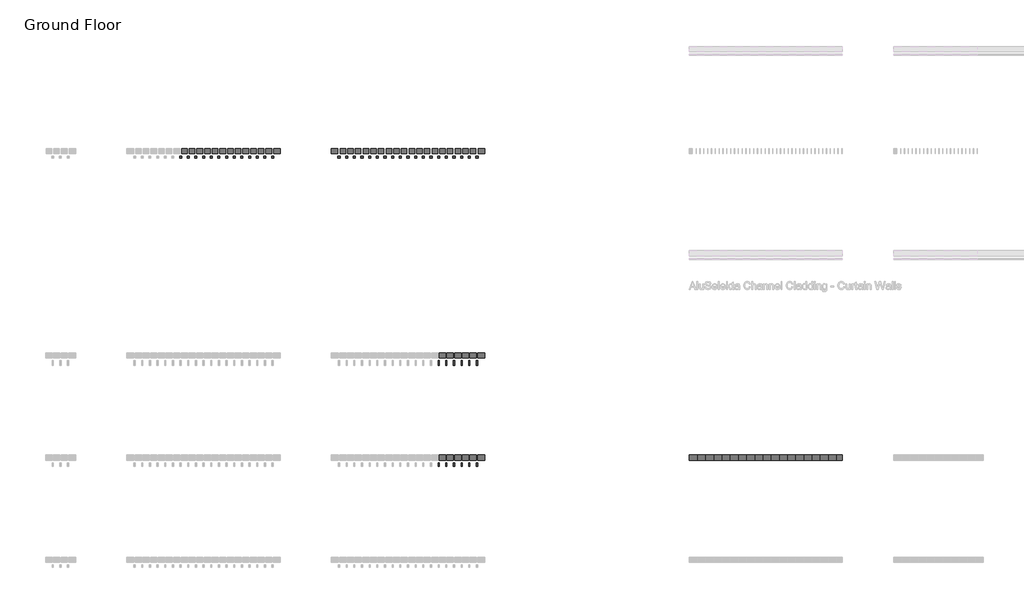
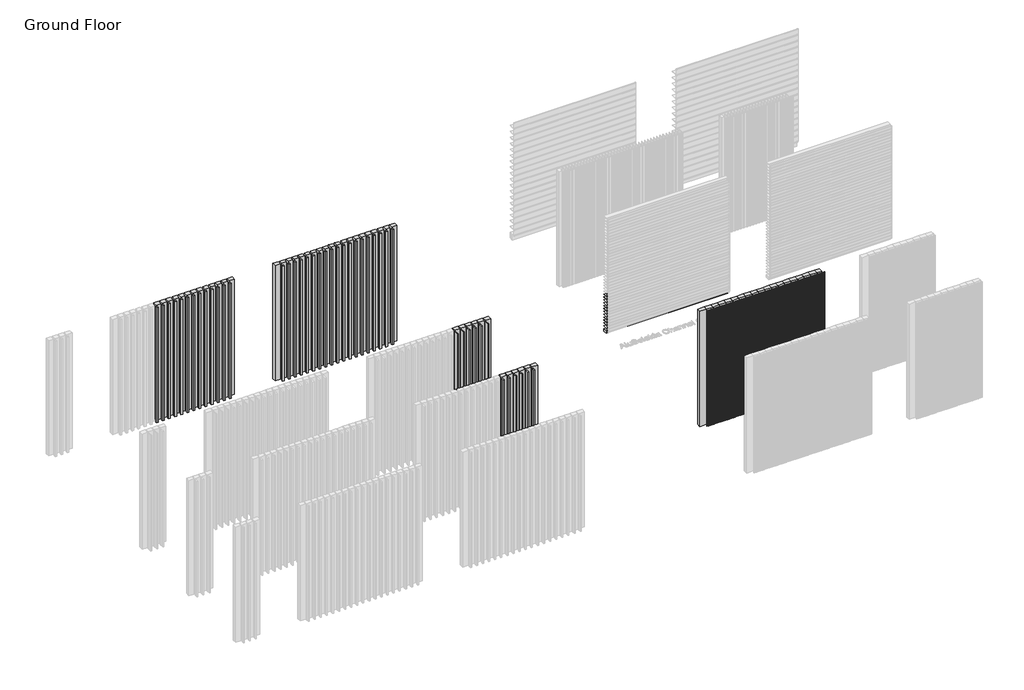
# One storey, part 10 of 350: 77 plates, 62 members.
"""IFC4 building model written with IfcOpenShell, lengths in millimetres."""

from ifc_helpers import new_model, si_unit, origin, place, context, project, spatial, transform, mapped, element, save
from components import rectangular_mullion_5b385907, rectangular_mullion_b3f0cc74, rectangular_mullion_e8802490, rectangular_mullion_73ab8564, empty_system_panel_empty_02c6fd44, empty_system_panel_empty_1b6afc67, empty_system_panel_empty_4d48d162, empty_system_panel_empty_b664eb17, empty_system_panel_empty_6da6c4cd, empty_system_panel_empty_b9c1531e, empty_system_panel_empty_3b645525, empty_system_panel_empty_df7ddcff, empty_system_panel_empty_81cf2ed3

model = new_model("IFC4")

# Units and contexts
model_context = context("Model", 3, world=origin())
ifc_project = project(units=[si_unit("LENGTHUNIT", "METRE", prefix="MILLI")], contexts=[model_context])

# Site, building, storey
site = spatial("IfcSite", under=ifc_project)
building = spatial("IfcBuilding", under=site)
storey = spatial("IfcBuildingStorey", under=building, Name="Ground Floor", Elevation=0.0)

# Members
placement = place(None, origin())
rectangular_mullion_shape = rectangular_mullion_5b385907(model_context)
element("IfcMember", 1, ObjectType="Rectangular Mullion : Batten_Aluminium_Modinex_AluBatten_40x40_TasmanianOak", at=placement, inside=storey, context=model_context, shape_type="MappedRepresentation", body=[
    mapped(rectangular_mullion_shape, transform((18966.4361642, 14968.2978302, 0.0), x_axis=(1.0, 0.0, 0.0), y_axis=(0.0, -1.0, 0.0), z_axis=(0.0, 0.0, -1.0))),
])
element("IfcMember", 2, ObjectType="Rectangular Mullion : Batten_Aluminium_Modinex_AluBatten_40x40_TasmanianOak", at=placement, inside=storey, context=model_context, shape_type="MappedRepresentation", body=[
    mapped(rectangular_mullion_shape, transform((19116.4361642, 14968.2978302, 0.0), x_axis=(1.0, 0.0, 0.0), y_axis=(0.0, -1.0, 0.0), z_axis=(0.0, 0.0, -1.0))),
])
element("IfcMember", 3, ObjectType="Rectangular Mullion : Batten_Aluminium_Modinex_AluBatten_40x40_TasmanianOak", at=placement, inside=storey, context=model_context, shape_type="MappedRepresentation", body=[
    mapped(rectangular_mullion_shape, transform((19266.4361642, 14968.2978302, 0.0), x_axis=(1.0, 0.0, 0.0), y_axis=(0.0, -1.0, 0.0), z_axis=(0.0, 0.0, -1.0))),
])
element("IfcMember", 4, ObjectType="Rectangular Mullion : Batten_Aluminium_Modinex_AluBatten_40x40_TasmanianOak", at=placement, inside=storey, context=model_context, shape_type="MappedRepresentation", body=[
    mapped(rectangular_mullion_shape, transform((19416.4361642, 14968.2978302, 0.0), x_axis=(1.0, 0.0, 0.0), y_axis=(0.0, -1.0, 0.0), z_axis=(0.0, 0.0, -1.0))),
])
element("IfcMember", 5, ObjectType="Rectangular Mullion : Batten_Aluminium_Modinex_AluBatten_40x40_TasmanianOak", at=placement, inside=storey, context=model_context, shape_type="MappedRepresentation", body=[
    mapped(rectangular_mullion_shape, transform((19566.4361642, 14968.2978302, 0.0), x_axis=(1.0, 0.0, 0.0), y_axis=(0.0, -1.0, 0.0), z_axis=(0.0, 0.0, -1.0))),
])
element("IfcMember", 6, ObjectType="Rectangular Mullion : Batten_Aluminium_Modinex_AluBatten_40x40_TasmanianOak", at=placement, inside=storey, context=model_context, shape_type="MappedRepresentation", body=[
    mapped(rectangular_mullion_shape, transform((19716.4361642, 14968.2978302, 0.0), x_axis=(1.0, 0.0, 0.0), y_axis=(0.0, -1.0, 0.0), z_axis=(0.0, 0.0, -1.0))),
])
element("IfcMember", 7, ObjectType="Rectangular Mullion : Batten_Aluminium_Modinex_AluBatten_40x40_TasmanianOak", at=placement, inside=storey, context=model_context, shape_type="MappedRepresentation", body=[
    mapped(rectangular_mullion_shape, transform((19866.4361642, 14968.2978302, 0.0), x_axis=(1.0, 0.0, 0.0), y_axis=(0.0, -1.0, 0.0), z_axis=(0.0, 0.0, -1.0))),
])
element("IfcMember", 8, ObjectType="Rectangular Mullion : Batten_Aluminium_Modinex_AluBatten_40x40_TasmanianOak", at=placement, inside=storey, context=model_context, shape_type="MappedRepresentation", body=[
    mapped(rectangular_mullion_shape, transform((20016.4361642, 14968.2978302, 0.0), x_axis=(1.0, 0.0, 0.0), y_axis=(0.0, -1.0, 0.0), z_axis=(0.0, 0.0, -1.0))),
])
element("IfcMember", 9, ObjectType="Rectangular Mullion : Batten_Aluminium_Modinex_AluBatten_40x40_TasmanianOak", at=placement, inside=storey, context=model_context, shape_type="MappedRepresentation", body=[
    mapped(rectangular_mullion_shape, transform((20166.4361642, 14968.2978302, 0.0), x_axis=(1.0, 0.0, 0.0), y_axis=(0.0, -1.0, 0.0), z_axis=(0.0, 0.0, -1.0))),
])
element("IfcMember", 10, ObjectType="Rectangular Mullion : Batten_Aluminium_Modinex_AluBatten_40x40_TasmanianOak", at=placement, inside=storey, context=model_context, shape_type="MappedRepresentation", body=[
    mapped(rectangular_mullion_shape, transform((20316.4361642, 14968.2978302, 0.0), x_axis=(1.0, 0.0, 0.0), y_axis=(0.0, -1.0, 0.0), z_axis=(0.0, 0.0, -1.0))),
])
element("IfcMember", 11, ObjectType="Rectangular Mullion : Batten_Aluminium_Modinex_AluBatten_40x40_TasmanianOak", at=placement, inside=storey, context=model_context, shape_type="MappedRepresentation", body=[
    mapped(rectangular_mullion_shape, transform((20466.4361642, 14968.2978302, 0.0), x_axis=(1.0, 0.0, 0.0), y_axis=(0.0, -1.0, 0.0), z_axis=(0.0, 0.0, -1.0))),
])
element("IfcMember", 12, ObjectType="Rectangular Mullion : Batten_Aluminium_Modinex_AluBatten_40x40_TasmanianOak", at=placement, inside=storey, context=model_context, shape_type="MappedRepresentation", body=[
    mapped(rectangular_mullion_shape, transform((20616.4361642, 14968.2978302, 0.0), x_axis=(1.0, 0.0, 0.0), y_axis=(0.0, -1.0, 0.0), z_axis=(0.0, 0.0, -1.0))),
])
element("IfcMember", 13, ObjectType="Rectangular Mullion : Batten_Aluminium_Modinex_AluBatten_40x40_TasmanianOak", at=placement, inside=storey, context=model_context, shape_type="MappedRepresentation", body=[
    mapped(rectangular_mullion_shape, transform((20766.4361642, 14968.2978302, 0.0), x_axis=(1.0, 0.0, 0.0), y_axis=(0.0, -1.0, 0.0), z_axis=(0.0, 0.0, -1.0))),
])
rectangular_mullion_2_shape = rectangular_mullion_b3f0cc74(model_context)
element("IfcMember", 14, ObjectType="Rectangular Mullion : Batten_Aluminium_Modinex_AluBatten_25x75_WhiteOak", at=placement, inside=storey, context=model_context, shape_type="MappedRepresentation", body=[
    mapped(rectangular_mullion_2_shape, transform((24016.4361642, 8968.2978302, 0.0), x_axis=(1.0, 0.0, 0.0), y_axis=(0.0, -1.0, 0.0), z_axis=(0.0, 0.0, -1.0))),
])
element("IfcMember", 15, ObjectType="Rectangular Mullion : Batten_Aluminium_Modinex_AluBatten_25x75_WhiteOak", at=placement, inside=storey, context=model_context, shape_type="MappedRepresentation", body=[
    mapped(rectangular_mullion_2_shape, transform((24166.4361642, 8968.2978302, 0.0), x_axis=(1.0, 0.0, 0.0), y_axis=(0.0, -1.0, 0.0), z_axis=(0.0, 0.0, -1.0))),
])
element("IfcMember", 16, ObjectType="Rectangular Mullion : Batten_Aluminium_Modinex_AluBatten_25x75_WhiteOak", at=placement, inside=storey, context=model_context, shape_type="MappedRepresentation", body=[
    mapped(rectangular_mullion_2_shape, transform((24316.4361642, 8968.2978302, 0.0), x_axis=(1.0, 0.0, 0.0), y_axis=(0.0, -1.0, 0.0), z_axis=(0.0, 0.0, -1.0))),
])
element("IfcMember", 17, ObjectType="Rectangular Mullion : Batten_Aluminium_Modinex_AluBatten_25x75_WhiteOak", at=placement, inside=storey, context=model_context, shape_type="MappedRepresentation", body=[
    mapped(rectangular_mullion_2_shape, transform((24466.4361642, 8968.2978302, 0.0), x_axis=(1.0, 0.0, 0.0), y_axis=(0.0, -1.0, 0.0), z_axis=(0.0, 0.0, -1.0))),
])
element("IfcMember", 18, ObjectType="Rectangular Mullion : Batten_Aluminium_Modinex_AluBatten_25x75_WhiteOak", at=placement, inside=storey, context=model_context, shape_type="MappedRepresentation", body=[
    mapped(rectangular_mullion_2_shape, transform((24616.4361642, 8968.2978302, 0.0), x_axis=(1.0, 0.0, 0.0), y_axis=(0.0, -1.0, 0.0), z_axis=(0.0, 0.0, -1.0))),
])
element("IfcMember", 19, ObjectType="Rectangular Mullion : Batten_Aluminium_Modinex_AluBatten_25x75_WhiteOak", at=placement, inside=storey, context=model_context, shape_type="MappedRepresentation", body=[
    mapped(rectangular_mullion_2_shape, transform((24766.4361642, 8968.2978302, 0.0), x_axis=(1.0, 0.0, 0.0), y_axis=(0.0, -1.0, 0.0), z_axis=(0.0, 0.0, -1.0))),
])
rectangular_mullion_3_shape = rectangular_mullion_e8802490(model_context)
element("IfcMember", 20, ObjectType="Rectangular Mullion : Batten_Aluminium_Modinex_AluBatten_25x100_WhiteOak", at=placement, inside=storey, context=model_context, shape_type="MappedRepresentation", body=[
    mapped(rectangular_mullion_3_shape, transform((24016.4361642, 10968.2978302, 0.0), x_axis=(1.0, 0.0, 0.0), y_axis=(0.0, -1.0, 0.0), z_axis=(0.0, 0.0, -1.0))),
])
element("IfcMember", 21, ObjectType="Rectangular Mullion : Batten_Aluminium_Modinex_AluBatten_25x100_WhiteOak", at=placement, inside=storey, context=model_context, shape_type="MappedRepresentation", body=[
    mapped(rectangular_mullion_3_shape, transform((24166.4361642, 10968.2978302, 0.0), x_axis=(1.0, 0.0, 0.0), y_axis=(0.0, -1.0, 0.0), z_axis=(0.0, 0.0, -1.0))),
])
element("IfcMember", 22, ObjectType="Rectangular Mullion : Batten_Aluminium_Modinex_AluBatten_25x100_WhiteOak", at=placement, inside=storey, context=model_context, shape_type="MappedRepresentation", body=[
    mapped(rectangular_mullion_3_shape, transform((24316.4361642, 10968.2978302, 0.0), x_axis=(1.0, 0.0, 0.0), y_axis=(0.0, -1.0, 0.0), z_axis=(0.0, 0.0, -1.0))),
])
element("IfcMember", 23, ObjectType="Rectangular Mullion : Batten_Aluminium_Modinex_AluBatten_25x100_WhiteOak", at=placement, inside=storey, context=model_context, shape_type="MappedRepresentation", body=[
    mapped(rectangular_mullion_3_shape, transform((24466.4361642, 10968.2978302, 0.0), x_axis=(1.0, 0.0, 0.0), y_axis=(0.0, -1.0, 0.0), z_axis=(0.0, 0.0, -1.0))),
])
element("IfcMember", 24, ObjectType="Rectangular Mullion : Batten_Aluminium_Modinex_AluBatten_25x100_WhiteOak", at=placement, inside=storey, context=model_context, shape_type="MappedRepresentation", body=[
    mapped(rectangular_mullion_3_shape, transform((24616.4361642, 10968.2978302, 0.0), x_axis=(1.0, 0.0, 0.0), y_axis=(0.0, -1.0, 0.0), z_axis=(0.0, 0.0, -1.0))),
])
element("IfcMember", 25, ObjectType="Rectangular Mullion : Batten_Aluminium_Modinex_AluBatten_25x100_WhiteOak", at=placement, inside=storey, context=model_context, shape_type="MappedRepresentation", body=[
    mapped(rectangular_mullion_3_shape, transform((24766.4361642, 10968.2978302, 0.0), x_axis=(1.0, 0.0, 0.0), y_axis=(0.0, -1.0, 0.0), z_axis=(0.0, 0.0, -1.0))),
])
element("IfcMember", 26, ObjectType="Rectangular Mullion : Batten_Aluminium_Modinex_AluBatten_40x40_WhiteOak", at=placement, inside=storey, context=model_context, shape_type="MappedRepresentation", body=[
    mapped(rectangular_mullion_shape, transform((22066.4361642, 14968.2978302, 0.0), x_axis=(1.0, 0.0, 0.0), y_axis=(0.0, -1.0, 0.0), z_axis=(0.0, 0.0, -1.0))),
])
element("IfcMember", 27, ObjectType="Rectangular Mullion : Batten_Aluminium_Modinex_AluBatten_40x40_WhiteOak", at=placement, inside=storey, context=model_context, shape_type="MappedRepresentation", body=[
    mapped(rectangular_mullion_shape, transform((22216.4361642, 14968.2978302, 0.0), x_axis=(1.0, 0.0, 0.0), y_axis=(0.0, -1.0, 0.0), z_axis=(0.0, 0.0, -1.0))),
])
element("IfcMember", 28, ObjectType="Rectangular Mullion : Batten_Aluminium_Modinex_AluBatten_40x40_WhiteOak", at=placement, inside=storey, context=model_context, shape_type="MappedRepresentation", body=[
    mapped(rectangular_mullion_shape, transform((22366.4361642, 14968.2978302, 0.0), x_axis=(1.0, 0.0, 0.0), y_axis=(0.0, -1.0, 0.0), z_axis=(0.0, 0.0, -1.0))),
])
element("IfcMember", 29, ObjectType="Rectangular Mullion : Batten_Aluminium_Modinex_AluBatten_40x40_WhiteOak", at=placement, inside=storey, context=model_context, shape_type="MappedRepresentation", body=[
    mapped(rectangular_mullion_shape, transform((22516.4361642, 14968.2978302, 0.0), x_axis=(1.0, 0.0, 0.0), y_axis=(0.0, -1.0, 0.0), z_axis=(0.0, 0.0, -1.0))),
])
element("IfcMember", 30, ObjectType="Rectangular Mullion : Batten_Aluminium_Modinex_AluBatten_40x40_WhiteOak", at=placement, inside=storey, context=model_context, shape_type="MappedRepresentation", body=[
    mapped(rectangular_mullion_shape, transform((22666.4361642, 14968.2978302, 0.0), x_axis=(1.0, 0.0, 0.0), y_axis=(0.0, -1.0, 0.0), z_axis=(0.0, 0.0, -1.0))),
])
element("IfcMember", 31, ObjectType="Rectangular Mullion : Batten_Aluminium_Modinex_AluBatten_40x40_WhiteOak", at=placement, inside=storey, context=model_context, shape_type="MappedRepresentation", body=[
    mapped(rectangular_mullion_shape, transform((22816.4361642, 14968.2978302, 0.0), x_axis=(1.0, 0.0, 0.0), y_axis=(0.0, -1.0, 0.0), z_axis=(0.0, 0.0, -1.0))),
])
element("IfcMember", 32, ObjectType="Rectangular Mullion : Batten_Aluminium_Modinex_AluBatten_40x40_WhiteOak", at=placement, inside=storey, context=model_context, shape_type="MappedRepresentation", body=[
    mapped(rectangular_mullion_shape, transform((22966.4361642, 14968.2978302, 0.0), x_axis=(1.0, 0.0, 0.0), y_axis=(0.0, -1.0, 0.0), z_axis=(0.0, 0.0, -1.0))),
])
element("IfcMember", 33, ObjectType="Rectangular Mullion : Batten_Aluminium_Modinex_AluBatten_40x40_WhiteOak", at=placement, inside=storey, context=model_context, shape_type="MappedRepresentation", body=[
    mapped(rectangular_mullion_shape, transform((23116.4361642, 14968.2978302, 0.0), x_axis=(1.0, 0.0, 0.0), y_axis=(0.0, -1.0, 0.0), z_axis=(0.0, 0.0, -1.0))),
])
element("IfcMember", 34, ObjectType="Rectangular Mullion : Batten_Aluminium_Modinex_AluBatten_40x40_WhiteOak", at=placement, inside=storey, context=model_context, shape_type="MappedRepresentation", body=[
    mapped(rectangular_mullion_shape, transform((23266.4361642, 14968.2978302, 0.0), x_axis=(1.0, 0.0, 0.0), y_axis=(0.0, -1.0, 0.0), z_axis=(0.0, 0.0, -1.0))),
])
element("IfcMember", 35, ObjectType="Rectangular Mullion : Batten_Aluminium_Modinex_AluBatten_40x40_WhiteOak", at=placement, inside=storey, context=model_context, shape_type="MappedRepresentation", body=[
    mapped(rectangular_mullion_shape, transform((23416.4361642, 14968.2978302, 0.0), x_axis=(1.0, 0.0, 0.0), y_axis=(0.0, -1.0, 0.0), z_axis=(0.0, 0.0, -1.0))),
])
element("IfcMember", 36, ObjectType="Rectangular Mullion : Batten_Aluminium_Modinex_AluBatten_40x40_WhiteOak", at=placement, inside=storey, context=model_context, shape_type="MappedRepresentation", body=[
    mapped(rectangular_mullion_shape, transform((23566.4361642, 14968.2978302, 0.0), x_axis=(1.0, 0.0, 0.0), y_axis=(0.0, -1.0, 0.0), z_axis=(0.0, 0.0, -1.0))),
])
element("IfcMember", 37, ObjectType="Rectangular Mullion : Batten_Aluminium_Modinex_AluBatten_40x40_WhiteOak", at=placement, inside=storey, context=model_context, shape_type="MappedRepresentation", body=[
    mapped(rectangular_mullion_shape, transform((23716.4361642, 14968.2978302, 0.0), x_axis=(1.0, 0.0, 0.0), y_axis=(0.0, -1.0, 0.0), z_axis=(0.0, 0.0, -1.0))),
])
element("IfcMember", 38, ObjectType="Rectangular Mullion : Batten_Aluminium_Modinex_AluBatten_40x40_WhiteOak", at=placement, inside=storey, context=model_context, shape_type="MappedRepresentation", body=[
    mapped(rectangular_mullion_shape, transform((23866.4361642, 14968.2978302, 0.0), x_axis=(1.0, 0.0, 0.0), y_axis=(0.0, -1.0, 0.0), z_axis=(0.0, 0.0, -1.0))),
])
element("IfcMember", 39, ObjectType="Rectangular Mullion : Batten_Aluminium_Modinex_AluBatten_40x40_WhiteOak", at=placement, inside=storey, context=model_context, shape_type="MappedRepresentation", body=[
    mapped(rectangular_mullion_shape, transform((24016.4361642, 14968.2978302, 0.0), x_axis=(1.0, 0.0, 0.0), y_axis=(0.0, -1.0, 0.0), z_axis=(0.0, 0.0, -1.0))),
])
element("IfcMember", 40, ObjectType="Rectangular Mullion : Batten_Aluminium_Modinex_AluBatten_40x40_WhiteOak", at=placement, inside=storey, context=model_context, shape_type="MappedRepresentation", body=[
    mapped(rectangular_mullion_shape, transform((24166.4361642, 14968.2978302, 0.0), x_axis=(1.0, 0.0, 0.0), y_axis=(0.0, -1.0, 0.0), z_axis=(0.0, 0.0, -1.0))),
])
element("IfcMember", 41, ObjectType="Rectangular Mullion : Batten_Aluminium_Modinex_AluBatten_40x40_WhiteOak", at=placement, inside=storey, context=model_context, shape_type="MappedRepresentation", body=[
    mapped(rectangular_mullion_shape, transform((24316.4361642, 14968.2978302, 0.0), x_axis=(1.0, 0.0, 0.0), y_axis=(0.0, -1.0, 0.0), z_axis=(0.0, 0.0, -1.0))),
])
element("IfcMember", 42, ObjectType="Rectangular Mullion : Batten_Aluminium_Modinex_AluBatten_40x40_WhiteOak", at=placement, inside=storey, context=model_context, shape_type="MappedRepresentation", body=[
    mapped(rectangular_mullion_shape, transform((24466.4361642, 14968.2978302, 0.0), x_axis=(1.0, 0.0, 0.0), y_axis=(0.0, -1.0, 0.0), z_axis=(0.0, 0.0, -1.0))),
])
element("IfcMember", 43, ObjectType="Rectangular Mullion : Batten_Aluminium_Modinex_AluBatten_40x40_WhiteOak", at=placement, inside=storey, context=model_context, shape_type="MappedRepresentation", body=[
    mapped(rectangular_mullion_shape, transform((24616.4361642, 14968.2978302, 0.0), x_axis=(1.0, 0.0, 0.0), y_axis=(0.0, -1.0, 0.0), z_axis=(0.0, 0.0, -1.0))),
])
element("IfcMember", 44, ObjectType="Rectangular Mullion : Batten_Aluminium_Modinex_AluBatten_40x40_WhiteOak", at=placement, inside=storey, context=model_context, shape_type="MappedRepresentation", body=[
    mapped(rectangular_mullion_shape, transform((24766.4361642, 14968.2978302, 0.0), x_axis=(1.0, 0.0, 0.0), y_axis=(0.0, -1.0, 0.0), z_axis=(0.0, 0.0, -1.0))),
])
rectangular_mullion_4_shape = rectangular_mullion_73ab8564(model_context)
element("IfcMember", 45, ObjectType="Rectangular Mullion : Cladding_Aluminium_Modinex_AluSelekta_Castelation_ScreenClad_160Ultra_AfricanEbony", at=placement, inside=storey, context=model_context, shape_type="MappedRepresentation", body=[
    mapped(rectangular_mullion_4_shape, transform((29076.4361642, 8968.2978302, 0.0), x_axis=(1.0, 0.0, 0.0), y_axis=(0.0, -1.0, 0.0), z_axis=(0.0, 0.0, -1.0))),
])
element("IfcMember", 46, ObjectType="Rectangular Mullion : Cladding_Aluminium_Modinex_AluSelekta_Castelation_ScreenClad_160Ultra_AfricanEbony", at=placement, inside=storey, context=model_context, shape_type="MappedRepresentation", body=[
    mapped(rectangular_mullion_4_shape, transform((29236.4361642, 8968.2978302, 0.0), x_axis=(1.0, 0.0, 0.0), y_axis=(0.0, -1.0, 0.0), z_axis=(0.0, 0.0, -1.0))),
])
element("IfcMember", 47, ObjectType="Rectangular Mullion : Cladding_Aluminium_Modinex_AluSelekta_Castelation_ScreenClad_160Ultra_AfricanEbony", at=placement, inside=storey, context=model_context, shape_type="MappedRepresentation", body=[
    mapped(rectangular_mullion_4_shape, transform((29396.4361642, 8968.2978302, 0.0), x_axis=(1.0, 0.0, 0.0), y_axis=(0.0, -1.0, 0.0), z_axis=(0.0, 0.0, -1.0))),
])
element("IfcMember", 48, ObjectType="Rectangular Mullion : Cladding_Aluminium_Modinex_AluSelekta_Castelation_ScreenClad_160Ultra_AfricanEbony", at=placement, inside=storey, context=model_context, shape_type="MappedRepresentation", body=[
    mapped(rectangular_mullion_4_shape, transform((29556.4361642, 8968.2978302, 0.0), x_axis=(1.0, 0.0, 0.0), y_axis=(0.0, -1.0, 0.0), z_axis=(0.0, 0.0, -1.0))),
])
element("IfcMember", 49, ObjectType="Rectangular Mullion : Cladding_Aluminium_Modinex_AluSelekta_Castelation_ScreenClad_160Ultra_AfricanEbony", at=placement, inside=storey, context=model_context, shape_type="MappedRepresentation", body=[
    mapped(rectangular_mullion_4_shape, transform((29716.4361642, 8968.2978302, 0.0), x_axis=(1.0, 0.0, 0.0), y_axis=(0.0, -1.0, 0.0), z_axis=(0.0, 0.0, -1.0))),
])
element("IfcMember", 50, ObjectType="Rectangular Mullion : Cladding_Aluminium_Modinex_AluSelekta_Castelation_ScreenClad_160Ultra_AfricanEbony", at=placement, inside=storey, context=model_context, shape_type="MappedRepresentation", body=[
    mapped(rectangular_mullion_4_shape, transform((29876.4361642, 8968.2978302, 0.0), x_axis=(1.0, 0.0, 0.0), y_axis=(0.0, -1.0, 0.0), z_axis=(0.0, 0.0, -1.0))),
])
element("IfcMember", 51, ObjectType="Rectangular Mullion : Cladding_Aluminium_Modinex_AluSelekta_Castelation_ScreenClad_160Ultra_AfricanEbony", at=placement, inside=storey, context=model_context, shape_type="MappedRepresentation", body=[
    mapped(rectangular_mullion_4_shape, transform((30036.4361642, 8968.2978302, 0.0), x_axis=(1.0, 0.0, 0.0), y_axis=(0.0, -1.0, 0.0), z_axis=(0.0, 0.0, -1.0))),
])
element("IfcMember", 52, ObjectType="Rectangular Mullion : Cladding_Aluminium_Modinex_AluSelekta_Castelation_ScreenClad_160Ultra_AfricanEbony", at=placement, inside=storey, context=model_context, shape_type="MappedRepresentation", body=[
    mapped(rectangular_mullion_4_shape, transform((30196.4361642, 8968.2978302, 0.0), x_axis=(1.0, 0.0, 0.0), y_axis=(0.0, -1.0, 0.0), z_axis=(0.0, 0.0, -1.0))),
])
element("IfcMember", 53, ObjectType="Rectangular Mullion : Cladding_Aluminium_Modinex_AluSelekta_Castelation_ScreenClad_160Ultra_AfricanEbony", at=placement, inside=storey, context=model_context, shape_type="MappedRepresentation", body=[
    mapped(rectangular_mullion_4_shape, transform((30356.4361642, 8968.2978302, 0.0), x_axis=(1.0, 0.0, 0.0), y_axis=(0.0, -1.0, 0.0), z_axis=(0.0, 0.0, -1.0))),
])
element("IfcMember", 54, ObjectType="Rectangular Mullion : Cladding_Aluminium_Modinex_AluSelekta_Castelation_ScreenClad_160Ultra_AfricanEbony", at=placement, inside=storey, context=model_context, shape_type="MappedRepresentation", body=[
    mapped(rectangular_mullion_4_shape, transform((30516.4361642, 8968.2978302, 0.0), x_axis=(1.0, 0.0, 0.0), y_axis=(0.0, -1.0, 0.0), z_axis=(0.0, 0.0, -1.0))),
])
element("IfcMember", 55, ObjectType="Rectangular Mullion : Cladding_Aluminium_Modinex_AluSelekta_Castelation_ScreenClad_160Ultra_AfricanEbony", at=placement, inside=storey, context=model_context, shape_type="MappedRepresentation", body=[
    mapped(rectangular_mullion_4_shape, transform((30676.4361642, 8968.2978302, 0.0), x_axis=(1.0, 0.0, 0.0), y_axis=(0.0, -1.0, 0.0), z_axis=(0.0, 0.0, -1.0))),
])
element("IfcMember", 56, ObjectType="Rectangular Mullion : Cladding_Aluminium_Modinex_AluSelekta_Castelation_ScreenClad_160Ultra_AfricanEbony", at=placement, inside=storey, context=model_context, shape_type="MappedRepresentation", body=[
    mapped(rectangular_mullion_4_shape, transform((30836.4361642, 8968.2978302, 0.0), x_axis=(1.0, 0.0, 0.0), y_axis=(0.0, -1.0, 0.0), z_axis=(0.0, 0.0, -1.0))),
])
element("IfcMember", 57, ObjectType="Rectangular Mullion : Cladding_Aluminium_Modinex_AluSelekta_Castelation_ScreenClad_160Ultra_AfricanEbony", at=placement, inside=storey, context=model_context, shape_type="MappedRepresentation", body=[
    mapped(rectangular_mullion_4_shape, transform((30996.4361642, 8968.2978302, 0.0), x_axis=(1.0, 0.0, 0.0), y_axis=(0.0, -1.0, 0.0), z_axis=(0.0, 0.0, -1.0))),
])
element("IfcMember", 58, ObjectType="Rectangular Mullion : Cladding_Aluminium_Modinex_AluSelekta_Castelation_ScreenClad_160Ultra_AfricanEbony", at=placement, inside=storey, context=model_context, shape_type="MappedRepresentation", body=[
    mapped(rectangular_mullion_4_shape, transform((31156.4361642, 8968.2978302, 0.0), x_axis=(1.0, 0.0, 0.0), y_axis=(0.0, -1.0, 0.0), z_axis=(0.0, 0.0, -1.0))),
])
element("IfcMember", 59, ObjectType="Rectangular Mullion : Cladding_Aluminium_Modinex_AluSelekta_Castelation_ScreenClad_160Ultra_AfricanEbony", at=placement, inside=storey, context=model_context, shape_type="MappedRepresentation", body=[
    mapped(rectangular_mullion_4_shape, transform((31316.4361642, 8968.2978302, 0.0), x_axis=(1.0, 0.0, 0.0), y_axis=(0.0, -1.0, 0.0), z_axis=(0.0, 0.0, -1.0))),
])
element("IfcMember", 60, ObjectType="Rectangular Mullion : Cladding_Aluminium_Modinex_AluSelekta_Castelation_ScreenClad_160Ultra_AfricanEbony", at=placement, inside=storey, context=model_context, shape_type="MappedRepresentation", body=[
    mapped(rectangular_mullion_4_shape, transform((31476.4361642, 8968.2978302, 0.0), x_axis=(1.0, 0.0, 0.0), y_axis=(0.0, -1.0, 0.0), z_axis=(0.0, 0.0, -1.0))),
])
element("IfcMember", 61, ObjectType="Rectangular Mullion : Cladding_Aluminium_Modinex_AluSelekta_Castelation_ScreenClad_160Ultra_AfricanEbony", at=placement, inside=storey, context=model_context, shape_type="MappedRepresentation", body=[
    mapped(rectangular_mullion_4_shape, transform((31636.4361642, 8968.2978302, 0.0), x_axis=(1.0, 0.0, 0.0), y_axis=(0.0, -1.0, 0.0), z_axis=(0.0, 0.0, -1.0))),
])
element("IfcMember", 62, ObjectType="Rectangular Mullion : Cladding_Aluminium_Modinex_AluSelekta_Castelation_ScreenClad_160Ultra_AfricanEbony", at=placement, inside=storey, context=model_context, shape_type="MappedRepresentation", body=[
    mapped(rectangular_mullion_4_shape, transform((31796.4361642, 8968.2978302, 0.0), x_axis=(1.0, 0.0, 0.0), y_axis=(0.0, -1.0, 0.0), z_axis=(0.0, 0.0, -1.0))),
])

# Plates
empty_system_panel_empty_shape = empty_system_panel_empty_02c6fd44(model_context)
element("IfcPlate", 63, ObjectType="Empty System Panel : Empty", at=placement, inside=storey, context=model_context, shape_type="MappedRepresentation", body=[
    mapped(empty_system_panel_empty_shape, transform((30416.4361639, 12968.2978302, 137.2580963), x_axis=(1.0, 0.0, 0.0), y_axis=(0.0, 1.0, 0.0), z_axis=(0.0, 0.0, 1.0))),
])
element("IfcPlate", 64, ObjectType="Empty System Panel : Empty", at=placement, inside=storey, context=model_context, shape_type="MappedRepresentation", body=[
    mapped(empty_system_panel_empty_shape, transform((30416.4361639, 12968.2978302, 212.2580963), x_axis=(1.0, 0.0, 0.0), y_axis=(0.0, 1.0, 0.0), z_axis=(0.0, 0.0, 1.0))),
])
element("IfcPlate", 65, ObjectType="Empty System Panel : Empty", at=placement, inside=storey, context=model_context, shape_type="MappedRepresentation", body=[
    mapped(empty_system_panel_empty_shape, transform((30416.4361639, 12968.2978302, 287.2580963), x_axis=(1.0, 0.0, 0.0), y_axis=(0.0, 1.0, 0.0), z_axis=(0.0, 0.0, 1.0))),
])
element("IfcPlate", 66, ObjectType="Empty System Panel : Empty", at=placement, inside=storey, context=model_context, shape_type="MappedRepresentation", body=[
    mapped(empty_system_panel_empty_shape, transform((30416.4361639, 12968.2978302, 362.2580963), x_axis=(1.0, 0.0, 0.0), y_axis=(0.0, 1.0, 0.0), z_axis=(0.0, 0.0, 1.0))),
])
element("IfcPlate", 67, ObjectType="Empty System Panel : Empty", at=placement, inside=storey, context=model_context, shape_type="MappedRepresentation", body=[
    mapped(empty_system_panel_empty_shape, transform((30416.4361639, 12968.2978302, 437.2580963), x_axis=(1.0, 0.0, 0.0), y_axis=(0.0, 1.0, 0.0), z_axis=(0.0, 0.0, 1.0))),
])
element("IfcPlate", 68, ObjectType="Empty System Panel : Empty", at=placement, inside=storey, context=model_context, shape_type="MappedRepresentation", body=[
    mapped(empty_system_panel_empty_shape, transform((30416.4361639, 12968.2978302, 512.2580963), x_axis=(1.0, 0.0, 0.0), y_axis=(0.0, 1.0, 0.0), z_axis=(0.0, 0.0, 1.0))),
])
element("IfcPlate", 69, ObjectType="Empty System Panel : Empty", at=placement, inside=storey, context=model_context, shape_type="MappedRepresentation", body=[
    mapped(empty_system_panel_empty_shape, transform((30416.4361639, 12968.2978302, 587.2580963), x_axis=(1.0, 0.0, 0.0), y_axis=(0.0, 1.0, 0.0), z_axis=(0.0, 0.0, 1.0))),
])
element("IfcPlate", 70, ObjectType="Empty System Panel : Empty", at=placement, inside=storey, context=model_context, shape_type="MappedRepresentation", body=[
    mapped(empty_system_panel_empty_shape, transform((30416.4361639, 12968.2978302, 662.2580963), x_axis=(1.0, 0.0, 0.0), y_axis=(0.0, 1.0, 0.0), z_axis=(0.0, 0.0, 1.0))),
])
element("IfcPlate", 71, ObjectType="Empty System Panel : Empty", at=placement, inside=storey, context=model_context, shape_type="MappedRepresentation", body=[
    mapped(empty_system_panel_empty_shape, transform((30416.4361639, 12968.2978302, 737.2580963), x_axis=(1.0, 0.0, 0.0), y_axis=(0.0, 1.0, 0.0), z_axis=(0.0, 0.0, 1.0))),
])
element("IfcPlate", 72, ObjectType="Empty System Panel : Empty", at=placement, inside=storey, context=model_context, shape_type="MappedRepresentation", body=[
    mapped(empty_system_panel_empty_shape, transform((30416.4361639, 12968.2978302, 812.2580963), x_axis=(1.0, 0.0, 0.0), y_axis=(0.0, 1.0, 0.0), z_axis=(0.0, 0.0, 1.0))),
])
element("IfcPlate", 73, ObjectType="Empty System Panel : Empty", at=placement, inside=storey, context=model_context, shape_type="MappedRepresentation", body=[
    mapped(empty_system_panel_empty_shape, transform((30416.4361639, 12968.2978302, 887.2580963), x_axis=(1.0, 0.0, 0.0), y_axis=(0.0, 1.0, 0.0), z_axis=(0.0, 0.0, 1.0))),
])
element("IfcPlate", 74, ObjectType="Empty System Panel : Empty", at=placement, inside=storey, context=model_context, shape_type="MappedRepresentation", body=[
    mapped(empty_system_panel_empty_shape, transform((30416.4361639, 12968.2978302, 962.2580963), x_axis=(1.0, 0.0, 0.0), y_axis=(0.0, 1.0, 0.0), z_axis=(0.0, 0.0, 1.0))),
])
empty_system_panel_empty_2_shape = empty_system_panel_empty_1b6afc67(model_context)
element("IfcPlate", 75, ObjectType="Empty System Panel : Empty", at=placement, inside=storey, context=model_context, shape_type="MappedRepresentation", body=[
    mapped(empty_system_panel_empty_2_shape, transform((24091.4361642, 8968.2978302, 0.0), x_axis=(1.0, 0.0, 0.0), y_axis=(0.0, 1.0, 0.0), z_axis=(0.0, 0.0, 1.0))),
])
element("IfcPlate", 76, ObjectType="Empty System Panel : Empty", at=placement, inside=storey, context=model_context, shape_type="MappedRepresentation", body=[
    mapped(empty_system_panel_empty_2_shape, transform((24241.4361642, 8968.2978302, 0.0), x_axis=(1.0, 0.0, 0.0), y_axis=(0.0, 1.0, 0.0), z_axis=(0.0, 0.0, 1.0))),
])
element("IfcPlate", 77, ObjectType="Empty System Panel : Empty", at=placement, inside=storey, context=model_context, shape_type="MappedRepresentation", body=[
    mapped(empty_system_panel_empty_2_shape, transform((24391.4361642, 8968.2978302, 0.0), x_axis=(1.0, 0.0, 0.0), y_axis=(0.0, 1.0, 0.0), z_axis=(0.0, 0.0, 1.0))),
])
element("IfcPlate", 78, ObjectType="Empty System Panel : Empty", at=placement, inside=storey, context=model_context, shape_type="MappedRepresentation", body=[
    mapped(empty_system_panel_empty_2_shape, transform((24541.4361642, 8968.2978302, 0.0), x_axis=(1.0, 0.0, 0.0), y_axis=(0.0, 1.0, 0.0), z_axis=(0.0, 0.0, 1.0))),
])
element("IfcPlate", 79, ObjectType="Empty System Panel : Empty", at=placement, inside=storey, context=model_context, shape_type="MappedRepresentation", body=[
    mapped(empty_system_panel_empty_2_shape, transform((24691.4361642, 8968.2978302, 0.0), x_axis=(1.0, 0.0, 0.0), y_axis=(0.0, 1.0, 0.0), z_axis=(0.0, 0.0, 1.0))),
])
element("IfcPlate", 80, ObjectType="Empty System Panel : Empty", at=placement, inside=storey, context=model_context, shape_type="MappedRepresentation", body=[
    mapped(empty_system_panel_empty_2_shape, transform((24091.4361642, 10968.2978302, 0.0), x_axis=(1.0, 0.0, 0.0), y_axis=(0.0, 1.0, 0.0), z_axis=(0.0, 0.0, 1.0))),
])
element("IfcPlate", 81, ObjectType="Empty System Panel : Empty", at=placement, inside=storey, context=model_context, shape_type="MappedRepresentation", body=[
    mapped(empty_system_panel_empty_2_shape, transform((24241.4361642, 10968.2978302, 0.0), x_axis=(1.0, 0.0, 0.0), y_axis=(0.0, 1.0, 0.0), z_axis=(0.0, 0.0, 1.0))),
])
element("IfcPlate", 82, ObjectType="Empty System Panel : Empty", at=placement, inside=storey, context=model_context, shape_type="MappedRepresentation", body=[
    mapped(empty_system_panel_empty_2_shape, transform((24391.4361642, 10968.2978302, 0.0), x_axis=(1.0, 0.0, 0.0), y_axis=(0.0, 1.0, 0.0), z_axis=(0.0, 0.0, 1.0))),
])
element("IfcPlate", 83, ObjectType="Empty System Panel : Empty", at=placement, inside=storey, context=model_context, shape_type="MappedRepresentation", body=[
    mapped(empty_system_panel_empty_2_shape, transform((24541.4361642, 10968.2978302, 0.0), x_axis=(1.0, 0.0, 0.0), y_axis=(0.0, 1.0, 0.0), z_axis=(0.0, 0.0, 1.0))),
])
element("IfcPlate", 84, ObjectType="Empty System Panel : Empty", at=placement, inside=storey, context=model_context, shape_type="MappedRepresentation", body=[
    mapped(empty_system_panel_empty_2_shape, transform((24691.4361642, 10968.2978302, 0.0), x_axis=(1.0, 0.0, 0.0), y_axis=(0.0, 1.0, 0.0), z_axis=(0.0, 0.0, 1.0))),
])
empty_system_panel_empty_3_shape = empty_system_panel_empty_4d48d162(model_context)
element("IfcPlate", 85, ObjectType="Empty System Panel : Empty", at=placement, inside=storey, context=model_context, shape_type="MappedRepresentation", body=[
    mapped(empty_system_panel_empty_3_shape, transform((24847.6861641, 8968.2978302, 0.0), x_axis=(1.0, 0.0, 0.0), y_axis=(0.0, 1.0, 0.0), z_axis=(0.0, 0.0, 1.0))),
])
element("IfcPlate", 86, ObjectType="Empty System Panel : Empty", at=placement, inside=storey, context=model_context, shape_type="MappedRepresentation", body=[
    mapped(empty_system_panel_empty_3_shape, transform((24847.6861641, 10968.2978302, 0.0), x_axis=(1.0, 0.0, 0.0), y_axis=(0.0, 1.0, 0.0), z_axis=(0.0, 0.0, 1.0))),
])
empty_system_panel_empty_4_shape = empty_system_panel_empty_b664eb17(model_context)
element("IfcPlate", 87, ObjectType="Empty System Panel : Empty", at=placement, inside=storey, context=model_context, shape_type="MappedRepresentation", body=[
    mapped(empty_system_panel_empty_4_shape, transform((21981.4361641, 14968.2978302, 0.0), x_axis=(1.0, 0.0, 0.0), y_axis=(0.0, 1.0, 0.0), z_axis=(0.0, 0.0, 1.0))),
])
empty_system_panel_empty_5_shape = empty_system_panel_empty_6da6c4cd(model_context)
element("IfcPlate", 88, ObjectType="Empty System Panel : Empty", at=placement, inside=storey, context=model_context, shape_type="MappedRepresentation", body=[
    mapped(empty_system_panel_empty_5_shape, transform((19041.4361642, 14968.2978302, 0.0), x_axis=(1.0, 0.0, 0.0), y_axis=(0.0, 1.0, 0.0), z_axis=(0.0, 0.0, 1.0))),
])
element("IfcPlate", 89, ObjectType="Empty System Panel : Empty", at=placement, inside=storey, context=model_context, shape_type="MappedRepresentation", body=[
    mapped(empty_system_panel_empty_5_shape, transform((19191.4361642, 14968.2978302, 0.0), x_axis=(1.0, 0.0, 0.0), y_axis=(0.0, 1.0, 0.0), z_axis=(0.0, 0.0, 1.0))),
])
element("IfcPlate", 90, ObjectType="Empty System Panel : Empty", at=placement, inside=storey, context=model_context, shape_type="MappedRepresentation", body=[
    mapped(empty_system_panel_empty_5_shape, transform((19341.4361642, 14968.2978302, 0.0), x_axis=(1.0, 0.0, 0.0), y_axis=(0.0, 1.0, 0.0), z_axis=(0.0, 0.0, 1.0))),
])
element("IfcPlate", 91, ObjectType="Empty System Panel : Empty", at=placement, inside=storey, context=model_context, shape_type="MappedRepresentation", body=[
    mapped(empty_system_panel_empty_5_shape, transform((19491.4361642, 14968.2978302, 0.0), x_axis=(1.0, 0.0, 0.0), y_axis=(0.0, 1.0, 0.0), z_axis=(0.0, 0.0, 1.0))),
])
element("IfcPlate", 92, ObjectType="Empty System Panel : Empty", at=placement, inside=storey, context=model_context, shape_type="MappedRepresentation", body=[
    mapped(empty_system_panel_empty_5_shape, transform((19641.4361642, 14968.2978302, 0.0), x_axis=(1.0, 0.0, 0.0), y_axis=(0.0, 1.0, 0.0), z_axis=(0.0, 0.0, 1.0))),
])
element("IfcPlate", 93, ObjectType="Empty System Panel : Empty", at=placement, inside=storey, context=model_context, shape_type="MappedRepresentation", body=[
    mapped(empty_system_panel_empty_5_shape, transform((19791.4361642, 14968.2978302, 0.0), x_axis=(1.0, 0.0, 0.0), y_axis=(0.0, 1.0, 0.0), z_axis=(0.0, 0.0, 1.0))),
])
element("IfcPlate", 94, ObjectType="Empty System Panel : Empty", at=placement, inside=storey, context=model_context, shape_type="MappedRepresentation", body=[
    mapped(empty_system_panel_empty_5_shape, transform((19941.4361642, 14968.2978302, 0.0), x_axis=(1.0, 0.0, 0.0), y_axis=(0.0, 1.0, 0.0), z_axis=(0.0, 0.0, 1.0))),
])
element("IfcPlate", 95, ObjectType="Empty System Panel : Empty", at=placement, inside=storey, context=model_context, shape_type="MappedRepresentation", body=[
    mapped(empty_system_panel_empty_5_shape, transform((20091.4361642, 14968.2978302, 0.0), x_axis=(1.0, 0.0, 0.0), y_axis=(0.0, 1.0, 0.0), z_axis=(0.0, 0.0, 1.0))),
])
element("IfcPlate", 96, ObjectType="Empty System Panel : Empty", at=placement, inside=storey, context=model_context, shape_type="MappedRepresentation", body=[
    mapped(empty_system_panel_empty_5_shape, transform((20241.4361642, 14968.2978302, 0.0), x_axis=(1.0, 0.0, 0.0), y_axis=(0.0, 1.0, 0.0), z_axis=(0.0, 0.0, 1.0))),
])
element("IfcPlate", 97, ObjectType="Empty System Panel : Empty", at=placement, inside=storey, context=model_context, shape_type="MappedRepresentation", body=[
    mapped(empty_system_panel_empty_5_shape, transform((20391.4361642, 14968.2978302, 0.0), x_axis=(1.0, 0.0, 0.0), y_axis=(0.0, 1.0, 0.0), z_axis=(0.0, 0.0, 1.0))),
])
element("IfcPlate", 98, ObjectType="Empty System Panel : Empty", at=placement, inside=storey, context=model_context, shape_type="MappedRepresentation", body=[
    mapped(empty_system_panel_empty_5_shape, transform((20541.4361642, 14968.2978302, 0.0), x_axis=(1.0, 0.0, 0.0), y_axis=(0.0, 1.0, 0.0), z_axis=(0.0, 0.0, 1.0))),
])
element("IfcPlate", 99, ObjectType="Empty System Panel : Empty", at=placement, inside=storey, context=model_context, shape_type="MappedRepresentation", body=[
    mapped(empty_system_panel_empty_5_shape, transform((20691.4361642, 14968.2978302, 0.0), x_axis=(1.0, 0.0, 0.0), y_axis=(0.0, 1.0, 0.0), z_axis=(0.0, 0.0, 1.0))),
])
element("IfcPlate", 100, ObjectType="Empty System Panel : Empty", at=placement, inside=storey, context=model_context, shape_type="MappedRepresentation", body=[
    mapped(empty_system_panel_empty_5_shape, transform((22141.4361642, 14968.2978302, 0.0), x_axis=(1.0, 0.0, 0.0), y_axis=(0.0, 1.0, 0.0), z_axis=(0.0, 0.0, 1.0))),
])
element("IfcPlate", 101, ObjectType="Empty System Panel : Empty", at=placement, inside=storey, context=model_context, shape_type="MappedRepresentation", body=[
    mapped(empty_system_panel_empty_5_shape, transform((22291.4361642, 14968.2978302, 0.0), x_axis=(1.0, 0.0, 0.0), y_axis=(0.0, 1.0, 0.0), z_axis=(0.0, 0.0, 1.0))),
])
element("IfcPlate", 102, ObjectType="Empty System Panel : Empty", at=placement, inside=storey, context=model_context, shape_type="MappedRepresentation", body=[
    mapped(empty_system_panel_empty_5_shape, transform((22441.4361642, 14968.2978302, 0.0), x_axis=(1.0, 0.0, 0.0), y_axis=(0.0, 1.0, 0.0), z_axis=(0.0, 0.0, 1.0))),
])
element("IfcPlate", 103, ObjectType="Empty System Panel : Empty", at=placement, inside=storey, context=model_context, shape_type="MappedRepresentation", body=[
    mapped(empty_system_panel_empty_5_shape, transform((22591.4361642, 14968.2978302, 0.0), x_axis=(1.0, 0.0, 0.0), y_axis=(0.0, 1.0, 0.0), z_axis=(0.0, 0.0, 1.0))),
])
element("IfcPlate", 104, ObjectType="Empty System Panel : Empty", at=placement, inside=storey, context=model_context, shape_type="MappedRepresentation", body=[
    mapped(empty_system_panel_empty_5_shape, transform((22741.4361642, 14968.2978302, 0.0), x_axis=(1.0, 0.0, 0.0), y_axis=(0.0, 1.0, 0.0), z_axis=(0.0, 0.0, 1.0))),
])
element("IfcPlate", 105, ObjectType="Empty System Panel : Empty", at=placement, inside=storey, context=model_context, shape_type="MappedRepresentation", body=[
    mapped(empty_system_panel_empty_5_shape, transform((22891.4361642, 14968.2978302, 0.0), x_axis=(1.0, 0.0, 0.0), y_axis=(0.0, 1.0, 0.0), z_axis=(0.0, 0.0, 1.0))),
])
element("IfcPlate", 106, ObjectType="Empty System Panel : Empty", at=placement, inside=storey, context=model_context, shape_type="MappedRepresentation", body=[
    mapped(empty_system_panel_empty_5_shape, transform((23041.4361642, 14968.2978302, 0.0), x_axis=(1.0, 0.0, 0.0), y_axis=(0.0, 1.0, 0.0), z_axis=(0.0, 0.0, 1.0))),
])
element("IfcPlate", 107, ObjectType="Empty System Panel : Empty", at=placement, inside=storey, context=model_context, shape_type="MappedRepresentation", body=[
    mapped(empty_system_panel_empty_5_shape, transform((23191.4361642, 14968.2978302, 0.0), x_axis=(1.0, 0.0, 0.0), y_axis=(0.0, 1.0, 0.0), z_axis=(0.0, 0.0, 1.0))),
])
element("IfcPlate", 108, ObjectType="Empty System Panel : Empty", at=placement, inside=storey, context=model_context, shape_type="MappedRepresentation", body=[
    mapped(empty_system_panel_empty_5_shape, transform((23341.4361642, 14968.2978302, 0.0), x_axis=(1.0, 0.0, 0.0), y_axis=(0.0, 1.0, 0.0), z_axis=(0.0, 0.0, 1.0))),
])
element("IfcPlate", 109, ObjectType="Empty System Panel : Empty", at=placement, inside=storey, context=model_context, shape_type="MappedRepresentation", body=[
    mapped(empty_system_panel_empty_5_shape, transform((23491.4361642, 14968.2978302, 0.0), x_axis=(1.0, 0.0, 0.0), y_axis=(0.0, 1.0, 0.0), z_axis=(0.0, 0.0, 1.0))),
])
element("IfcPlate", 110, ObjectType="Empty System Panel : Empty", at=placement, inside=storey, context=model_context, shape_type="MappedRepresentation", body=[
    mapped(empty_system_panel_empty_5_shape, transform((23641.4361642, 14968.2978302, 0.0), x_axis=(1.0, 0.0, 0.0), y_axis=(0.0, 1.0, 0.0), z_axis=(0.0, 0.0, 1.0))),
])
element("IfcPlate", 111, ObjectType="Empty System Panel : Empty", at=placement, inside=storey, context=model_context, shape_type="MappedRepresentation", body=[
    mapped(empty_system_panel_empty_5_shape, transform((23791.4361642, 14968.2978302, 0.0), x_axis=(1.0, 0.0, 0.0), y_axis=(0.0, 1.0, 0.0), z_axis=(0.0, 0.0, 1.0))),
])
element("IfcPlate", 112, ObjectType="Empty System Panel : Empty", at=placement, inside=storey, context=model_context, shape_type="MappedRepresentation", body=[
    mapped(empty_system_panel_empty_5_shape, transform((23941.4361642, 14968.2978302, 0.0), x_axis=(1.0, 0.0, 0.0), y_axis=(0.0, 1.0, 0.0), z_axis=(0.0, 0.0, 1.0))),
])
element("IfcPlate", 113, ObjectType="Empty System Panel : Empty", at=placement, inside=storey, context=model_context, shape_type="MappedRepresentation", body=[
    mapped(empty_system_panel_empty_5_shape, transform((24091.4361642, 14968.2978302, 0.0), x_axis=(1.0, 0.0, 0.0), y_axis=(0.0, 1.0, 0.0), z_axis=(0.0, 0.0, 1.0))),
])
element("IfcPlate", 114, ObjectType="Empty System Panel : Empty", at=placement, inside=storey, context=model_context, shape_type="MappedRepresentation", body=[
    mapped(empty_system_panel_empty_5_shape, transform((24241.4361642, 14968.2978302, 0.0), x_axis=(1.0, 0.0, 0.0), y_axis=(0.0, 1.0, 0.0), z_axis=(0.0, 0.0, 1.0))),
])
element("IfcPlate", 115, ObjectType="Empty System Panel : Empty", at=placement, inside=storey, context=model_context, shape_type="MappedRepresentation", body=[
    mapped(empty_system_panel_empty_5_shape, transform((24391.4361642, 14968.2978302, 0.0), x_axis=(1.0, 0.0, 0.0), y_axis=(0.0, 1.0, 0.0), z_axis=(0.0, 0.0, 1.0))),
])
element("IfcPlate", 116, ObjectType="Empty System Panel : Empty", at=placement, inside=storey, context=model_context, shape_type="MappedRepresentation", body=[
    mapped(empty_system_panel_empty_5_shape, transform((24541.4361642, 14968.2978302, 0.0), x_axis=(1.0, 0.0, 0.0), y_axis=(0.0, 1.0, 0.0), z_axis=(0.0, 0.0, 1.0))),
])
element("IfcPlate", 117, ObjectType="Empty System Panel : Empty", at=placement, inside=storey, context=model_context, shape_type="MappedRepresentation", body=[
    mapped(empty_system_panel_empty_5_shape, transform((24691.4361642, 14968.2978302, 0.0), x_axis=(1.0, 0.0, 0.0), y_axis=(0.0, 1.0, 0.0), z_axis=(0.0, 0.0, 1.0))),
])
empty_system_panel_empty_6_shape = empty_system_panel_empty_b9c1531e(model_context)
element("IfcPlate", 118, ObjectType="Empty System Panel : Empty", at=placement, inside=storey, context=model_context, shape_type="MappedRepresentation", body=[
    mapped(empty_system_panel_empty_6_shape, transform((20851.4361641, 14968.2978302, 0.0), x_axis=(1.0, 0.0, 0.0), y_axis=(0.0, 1.0, 0.0), z_axis=(0.0, 0.0, 1.0))),
])
element("IfcPlate", 119, ObjectType="Empty System Panel : Empty", at=placement, inside=storey, context=model_context, shape_type="MappedRepresentation", body=[
    mapped(empty_system_panel_empty_6_shape, transform((24851.4361641, 14968.2978302, 0.0), x_axis=(1.0, 0.0, 0.0), y_axis=(0.0, 1.0, 0.0), z_axis=(0.0, 0.0, 1.0))),
])
empty_system_panel_empty_7_shape = empty_system_panel_empty_3b645525(model_context)
element("IfcPlate", 120, ObjectType="Empty System Panel : Empty", at=placement, inside=storey, context=model_context, shape_type="MappedRepresentation", body=[
    mapped(empty_system_panel_empty_7_shape, transform((28996.4361641, 8968.2978302, 0.0), x_axis=(1.0, 0.0, 0.0), y_axis=(0.0, 1.0, 0.0), z_axis=(0.0, 0.0, 1.0))),
])
element("IfcPlate", 121, ObjectType="Empty System Panel : Empty", at=placement, inside=storey, context=model_context, shape_type="MappedRepresentation", body=[
    mapped(empty_system_panel_empty_7_shape, transform((29156.4361642, 8968.2978302, 0.0), x_axis=(1.0, 0.0, 0.0), y_axis=(0.0, 1.0, 0.0), z_axis=(0.0, 0.0, 1.0))),
])
element("IfcPlate", 122, ObjectType="Empty System Panel : Empty", at=placement, inside=storey, context=model_context, shape_type="MappedRepresentation", body=[
    mapped(empty_system_panel_empty_7_shape, transform((29316.4361642, 8968.2978302, 0.0), x_axis=(1.0, 0.0, 0.0), y_axis=(0.0, 1.0, 0.0), z_axis=(0.0, 0.0, 1.0))),
])
element("IfcPlate", 123, ObjectType="Empty System Panel : Empty", at=placement, inside=storey, context=model_context, shape_type="MappedRepresentation", body=[
    mapped(empty_system_panel_empty_7_shape, transform((29476.4361642, 8968.2978302, 0.0), x_axis=(1.0, 0.0, 0.0), y_axis=(0.0, 1.0, 0.0), z_axis=(0.0, 0.0, 1.0))),
])
element("IfcPlate", 124, ObjectType="Empty System Panel : Empty", at=placement, inside=storey, context=model_context, shape_type="MappedRepresentation", body=[
    mapped(empty_system_panel_empty_7_shape, transform((29636.4361642, 8968.2978302, 0.0), x_axis=(1.0, 0.0, 0.0), y_axis=(0.0, 1.0, 0.0), z_axis=(0.0, 0.0, 1.0))),
])
element("IfcPlate", 125, ObjectType="Empty System Panel : Empty", at=placement, inside=storey, context=model_context, shape_type="MappedRepresentation", body=[
    mapped(empty_system_panel_empty_7_shape, transform((29796.4361642, 8968.2978302, 0.0), x_axis=(1.0, 0.0, 0.0), y_axis=(0.0, 1.0, 0.0), z_axis=(0.0, 0.0, 1.0))),
])
element("IfcPlate", 126, ObjectType="Empty System Panel : Empty", at=placement, inside=storey, context=model_context, shape_type="MappedRepresentation", body=[
    mapped(empty_system_panel_empty_7_shape, transform((29956.4361642, 8968.2978302, 0.0), x_axis=(1.0, 0.0, 0.0), y_axis=(0.0, 1.0, 0.0), z_axis=(0.0, 0.0, 1.0))),
])
element("IfcPlate", 127, ObjectType="Empty System Panel : Empty", at=placement, inside=storey, context=model_context, shape_type="MappedRepresentation", body=[
    mapped(empty_system_panel_empty_7_shape, transform((30116.4361642, 8968.2978302, 0.0), x_axis=(1.0, 0.0, 0.0), y_axis=(0.0, 1.0, 0.0), z_axis=(0.0, 0.0, 1.0))),
])
element("IfcPlate", 128, ObjectType="Empty System Panel : Empty", at=placement, inside=storey, context=model_context, shape_type="MappedRepresentation", body=[
    mapped(empty_system_panel_empty_7_shape, transform((30276.4361642, 8968.2978302, 0.0), x_axis=(1.0, 0.0, 0.0), y_axis=(0.0, 1.0, 0.0), z_axis=(0.0, 0.0, 1.0))),
])
element("IfcPlate", 129, ObjectType="Empty System Panel : Empty", at=placement, inside=storey, context=model_context, shape_type="MappedRepresentation", body=[
    mapped(empty_system_panel_empty_7_shape, transform((30436.4361642, 8968.2978302, 0.0), x_axis=(1.0, 0.0, 0.0), y_axis=(0.0, 1.0, 0.0), z_axis=(0.0, 0.0, 1.0))),
])
element("IfcPlate", 130, ObjectType="Empty System Panel : Empty", at=placement, inside=storey, context=model_context, shape_type="MappedRepresentation", body=[
    mapped(empty_system_panel_empty_7_shape, transform((30596.4361642, 8968.2978302, 0.0), x_axis=(1.0, 0.0, 0.0), y_axis=(0.0, 1.0, 0.0), z_axis=(0.0, 0.0, 1.0))),
])
element("IfcPlate", 131, ObjectType="Empty System Panel : Empty", at=placement, inside=storey, context=model_context, shape_type="MappedRepresentation", body=[
    mapped(empty_system_panel_empty_7_shape, transform((30756.4361642, 8968.2978302, 0.0), x_axis=(1.0, 0.0, 0.0), y_axis=(0.0, 1.0, 0.0), z_axis=(0.0, 0.0, 1.0))),
])
element("IfcPlate", 132, ObjectType="Empty System Panel : Empty", at=placement, inside=storey, context=model_context, shape_type="MappedRepresentation", body=[
    mapped(empty_system_panel_empty_7_shape, transform((30916.4361642, 8968.2978302, 0.0), x_axis=(1.0, 0.0, 0.0), y_axis=(0.0, 1.0, 0.0), z_axis=(0.0, 0.0, 1.0))),
])
element("IfcPlate", 133, ObjectType="Empty System Panel : Empty", at=placement, inside=storey, context=model_context, shape_type="MappedRepresentation", body=[
    mapped(empty_system_panel_empty_7_shape, transform((31076.4361642, 8968.2978302, 0.0), x_axis=(1.0, 0.0, 0.0), y_axis=(0.0, 1.0, 0.0), z_axis=(0.0, 0.0, 1.0))),
])
element("IfcPlate", 134, ObjectType="Empty System Panel : Empty", at=placement, inside=storey, context=model_context, shape_type="MappedRepresentation", body=[
    mapped(empty_system_panel_empty_7_shape, transform((31236.4361642, 8968.2978302, 0.0), x_axis=(1.0, 0.0, 0.0), y_axis=(0.0, 1.0, 0.0), z_axis=(0.0, 0.0, 1.0))),
])
element("IfcPlate", 135, ObjectType="Empty System Panel : Empty", at=placement, inside=storey, context=model_context, shape_type="MappedRepresentation", body=[
    mapped(empty_system_panel_empty_7_shape, transform((31396.4361642, 8968.2978302, 0.0), x_axis=(1.0, 0.0, 0.0), y_axis=(0.0, 1.0, 0.0), z_axis=(0.0, 0.0, 1.0))),
])
element("IfcPlate", 136, ObjectType="Empty System Panel : Empty", at=placement, inside=storey, context=model_context, shape_type="MappedRepresentation", body=[
    mapped(empty_system_panel_empty_7_shape, transform((31556.4361642, 8968.2978302, 0.0), x_axis=(1.0, 0.0, 0.0), y_axis=(0.0, 1.0, 0.0), z_axis=(0.0, 0.0, 1.0))),
])
element("IfcPlate", 137, ObjectType="Empty System Panel : Empty", at=placement, inside=storey, context=model_context, shape_type="MappedRepresentation", body=[
    mapped(empty_system_panel_empty_7_shape, transform((31716.4361642, 8968.2978302, 0.0), x_axis=(1.0, 0.0, 0.0), y_axis=(0.0, 1.0, 0.0), z_axis=(0.0, 0.0, 1.0))),
])
empty_system_panel_empty_8_shape = empty_system_panel_empty_df7ddcff(model_context)
element("IfcPlate", 138, ObjectType="Empty System Panel : Empty", at=placement, inside=storey, context=model_context, shape_type="MappedRepresentation", body=[
    mapped(empty_system_panel_empty_8_shape, transform((31856.4361641, 8968.2978302, 0.0), x_axis=(1.0, 0.0, 0.0), y_axis=(0.0, 1.0, 0.0), z_axis=(0.0, 0.0, 1.0))),
])
empty_system_panel_empty_9_shape = empty_system_panel_empty_81cf2ed3(model_context)
element("IfcPlate", 139, ObjectType="Empty System Panel : Empty", at=placement, inside=storey, context=model_context, shape_type="MappedRepresentation", body=[
    mapped(empty_system_panel_empty_9_shape, transform((30416.4361639, 12968.2978302, 0.0), x_axis=(1.0, 0.0, 0.0), y_axis=(0.0, 1.0, 0.0), z_axis=(0.0, 0.0, 1.0))),
])

save(model, "model.ifc")
